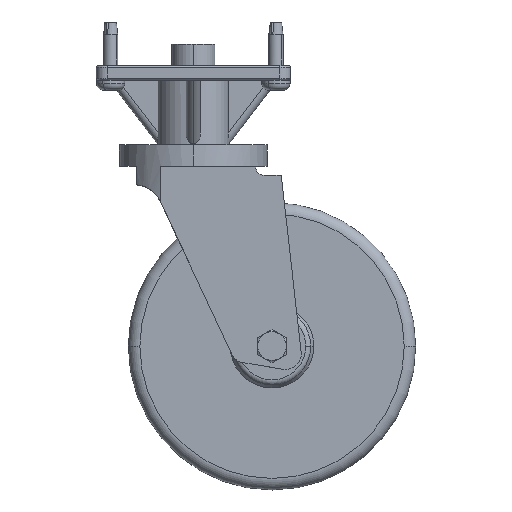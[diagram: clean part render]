
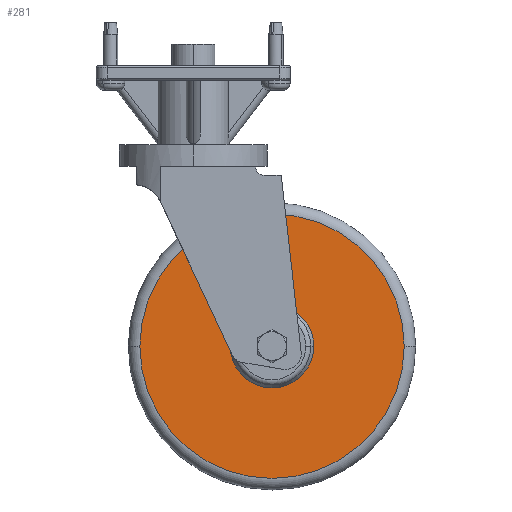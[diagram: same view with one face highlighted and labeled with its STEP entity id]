
A CAD part, top view. The second image highlights one B-rep face of the part: STEP entity #281.
In plain terms, the highlighted planar face has unit normal (0, 0, 1).
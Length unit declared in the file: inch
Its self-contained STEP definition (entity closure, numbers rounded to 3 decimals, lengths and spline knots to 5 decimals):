
#5 = CIRCLE ( 'NONE', #4202, 2.3 ) ;
#77 = EDGE_CURVE ( 'NONE', #1807, #919, #1744, .T. ) ;
#263 = DIRECTION ( 'NONE',  ( 1., 0., 0. ) ) ;
#281 = ADVANCED_FACE ( 'NONE', ( #3678, #5956 ), #809, .T. ) ;
#283 = CIRCLE ( 'NONE', #5426, 2.3 ) ;
#621 = VERTEX_POINT ( 'NONE', #6904 ) ;
#809 = PLANE ( 'NONE',  #2741 ) ;
#919 = VERTEX_POINT ( 'NONE', #6685 ) ;
#928 = DIRECTION ( 'NONE',  ( 1., 0., 0. ) ) ;
#942 = CARTESIAN_POINT ( 'NONE',  ( -2.3, 0., 1.28 ) ) ;
#1079 = EDGE_CURVE ( 'NONE', #919, #1807, #5841, .T. ) ;
#1109 = DIRECTION ( 'NONE',  ( 0., 0., 1. ) ) ;
#1744 = CIRCLE ( 'NONE', #1973, 0.72583 ) ;
#1753 = DIRECTION ( 'NONE',  ( 0., 0., 1. ) ) ;
#1807 = VERTEX_POINT ( 'NONE', #6148 ) ;
#1973 = AXIS2_PLACEMENT_3D ( 'NONE', #7304, #2171, #4478 ) ;
#2171 = DIRECTION ( 'NONE',  ( 0., 0., 1. ) ) ;
#2731 = ORIENTED_EDGE ( 'NONE', *, *, #3558, .T. ) ;
#2741 = AXIS2_PLACEMENT_3D ( 'NONE', #3111, #5395, #263 ) ;
#3111 = CARTESIAN_POINT ( 'NONE',  ( 0., 0., 1.28 ) ) ;
#3410 = DIRECTION ( 'NONE',  ( 1., 0., 0. ) ) ;
#3439 = ORIENTED_EDGE ( 'NONE', *, *, #77, .F. ) ;
#3558 = EDGE_CURVE ( 'NONE', #6292, #621, #5, .T. ) ;
#3678 = FACE_OUTER_BOUND ( 'NONE', #3680, .T. ) ;
#3680 = EDGE_LOOP ( 'NONE', ( #4353, #2731 ) ) ;
#3714 = EDGE_CURVE ( 'NONE', #621, #6292, #283, .T. ) ;
#3791 = CARTESIAN_POINT ( 'NONE',  ( 0., 0., 1.28 ) ) ;
#4065 = DIRECTION ( 'NONE',  ( 1., 0., 0. ) ) ;
#4202 = AXIS2_PLACEMENT_3D ( 'NONE', #3791, #6067, #928 ) ;
#4353 = ORIENTED_EDGE ( 'NONE', *, *, #3714, .T. ) ;
#4478 = DIRECTION ( 'NONE',  ( 1., 0., 0. ) ) ;
#5317 = ORIENTED_EDGE ( 'NONE', *, *, #1079, .F. ) ;
#5395 = DIRECTION ( 'NONE',  ( 0., 0., 1. ) ) ;
#5426 = AXIS2_PLACEMENT_3D ( 'NONE', #6249, #1109, #3410 ) ;
#5841 = CIRCLE ( 'NONE', #6792, 0.72583 ) ;
#5912 = EDGE_LOOP ( 'NONE', ( #3439, #5317 ) ) ;
#5956 = FACE_BOUND ( 'NONE', #5912, .T. ) ;
#6067 = DIRECTION ( 'NONE',  ( 0., 0., 1. ) ) ;
#6148 = CARTESIAN_POINT ( 'NONE',  ( 0.72583, 0., 1.28 ) ) ;
#6249 = CARTESIAN_POINT ( 'NONE',  ( 0., 0., 1.28 ) ) ;
#6292 = VERTEX_POINT ( 'NONE', #942 ) ;
#6685 = CARTESIAN_POINT ( 'NONE',  ( -0.72583, 0., 1.28 ) ) ;
#6792 = AXIS2_PLACEMENT_3D ( 'NONE', #6895, #1753, #4065 ) ;
#6895 = CARTESIAN_POINT ( 'NONE',  ( 0., 0., 1.28 ) ) ;
#6904 = CARTESIAN_POINT ( 'NONE',  ( 2.3, 0., 1.28 ) ) ;
#7304 = CARTESIAN_POINT ( 'NONE',  ( 0., 0., 1.28 ) ) ;
